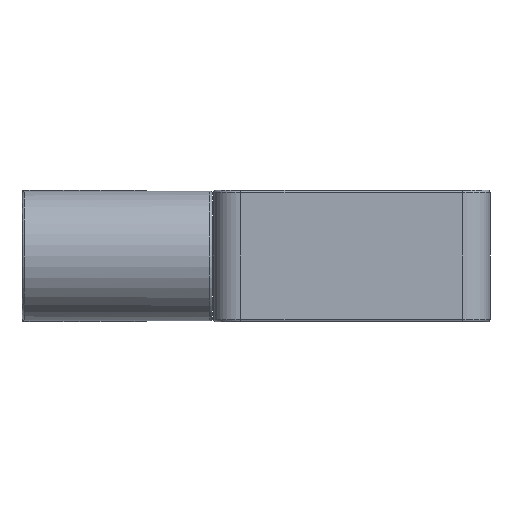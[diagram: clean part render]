
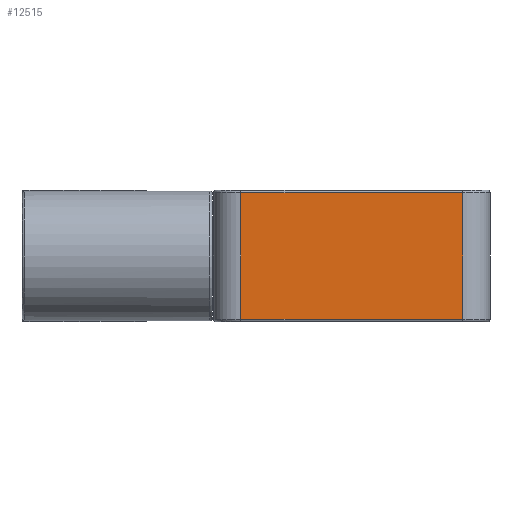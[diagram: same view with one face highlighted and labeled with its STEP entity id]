
A CAD part, front view. The second image highlights one B-rep face of the part: STEP entity #12515.
In plain terms, the highlighted planar face has unit normal (0, -1, 0).
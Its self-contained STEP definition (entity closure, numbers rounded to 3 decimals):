
#238 = CARTESIAN_POINT ( 'NONE',  ( -25.15, 0., 5.75 ) ) ;
#306 = VECTOR ( 'NONE', #9157, 1000. ) ;
#668 = VECTOR ( 'NONE', #1074, 1000. ) ;
#1021 = EDGE_CURVE ( 'NONE', #6237, #4173, #10696, .T. ) ;
#1031 = FACE_OUTER_BOUND ( 'NONE', #4473, .T. ) ;
#1040 = EDGE_CURVE ( 'NONE', #4173, #5066, #10319, .T. ) ;
#1074 = DIRECTION ( 'NONE',  ( -1., 0., 0. ) ) ;
#1088 = EDGE_CURVE ( 'NONE', #5066, #12446, #12299, .T. ) ;
#1188 = EDGE_CURVE ( 'NONE', #12446, #6237, #1883, .T. ) ;
#1883 = LINE ( 'NONE', #3410, #10495 ) ;
#1961 = CARTESIAN_POINT ( 'NONE',  ( -2.5, 0., 5.75 ) ) ;
#3052 = CARTESIAN_POINT ( 'NONE',  ( -22.65, 0., -5.75 ) ) ;
#3232 = ORIENTED_EDGE ( 'NONE', *, *, #1021, .T. ) ;
#3410 = CARTESIAN_POINT ( 'NONE',  ( -25.15, 0., -5.75 ) ) ;
#3574 = ORIENTED_EDGE ( 'NONE', *, *, #1040, .T. ) ;
#4173 = VERTEX_POINT ( 'NONE', #1961 ) ;
#4473 = EDGE_LOOP ( 'NONE', ( #3232, #3574, #6533, #13799 ) ) ;
#4868 = AXIS2_PLACEMENT_3D ( 'NONE', #8900, #13386, #7787 ) ;
#5066 = VERTEX_POINT ( 'NONE', #8393 ) ;
#5473 = PLANE ( 'NONE',  #4868 ) ;
#5772 = CARTESIAN_POINT ( 'NONE',  ( -22.65, 0., -6. ) ) ;
#6237 = VERTEX_POINT ( 'NONE', #13793 ) ;
#6533 = ORIENTED_EDGE ( 'NONE', *, *, #1088, .T. ) ;
#7787 = DIRECTION ( 'NONE',  ( -1., 0., 0. ) ) ;
#8393 = CARTESIAN_POINT ( 'NONE',  ( -22.65, 0., 5.75 ) ) ;
#8608 = DIRECTION ( 'NONE',  ( 1., 0., 0. ) ) ;
#8900 = CARTESIAN_POINT ( 'NONE',  ( -25.15, 0., 6. ) ) ;
#9157 = DIRECTION ( 'NONE',  ( 0., 0., -1. ) ) ;
#9950 = DIRECTION ( 'NONE',  ( 0., 0., 1. ) ) ;
#10319 = LINE ( 'NONE', #238, #668 ) ;
#10495 = VECTOR ( 'NONE', #8608, 1000. ) ;
#10696 = LINE ( 'NONE', #12423, #12658 ) ;
#12299 = LINE ( 'NONE', #5772, #306 ) ;
#12423 = CARTESIAN_POINT ( 'NONE',  ( -2.5, 0., 6. ) ) ;
#12446 = VERTEX_POINT ( 'NONE', #3052 ) ;
#12515 = ADVANCED_FACE ( 'NONE', ( #1031 ), #5473, .F. ) ;
#12658 = VECTOR ( 'NONE', #9950, 1000. ) ;
#13386 = DIRECTION ( 'NONE',  ( 0., 1., 0. ) ) ;
#13793 = CARTESIAN_POINT ( 'NONE',  ( -2.5, 0., -5.75 ) ) ;
#13799 = ORIENTED_EDGE ( 'NONE', *, *, #1188, .T. ) ;
